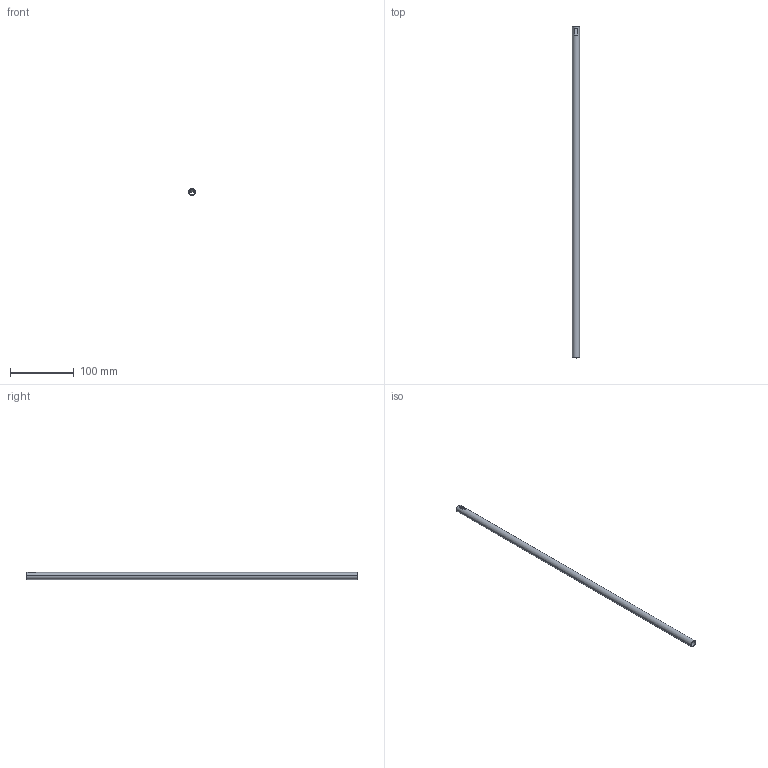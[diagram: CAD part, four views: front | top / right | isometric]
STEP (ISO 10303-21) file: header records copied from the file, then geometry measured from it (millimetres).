
FILE_DESCRIPTION (( 'STEP AP214' ), '1' );
FILE_NAME ('Relingsrohr_2S-Rundrel_Interwood_P760604300_550.step', '2010-09-07T12:59:36', ( 'grass' ), ( '' ), 'SwSTEP 2.0', 'SolidWorks 2010', '' );
FILE_SCHEMA (( 'AUTOMOTIVE_DESIGN' ));
Length unit declared in the file: millimetre
Products named in the file (1): Relingsrohr_2S-Rundrel_Interwood_P760604300_550
Bounding box: 11 x 519 x 11 mm (x, y, z)
Volume: 16302.6 mm3; surface area: 32713 mm2
Topology: 1 solids, 1 shells, 14 faces, 34 edges, 22 vertices
Faces by surface type: plane 10, cylinder 4
Entity records: 476 total; most frequent: CARTESIAN_POINT 77, DIRECTION 72, ORIENTED_EDGE 68, EDGE_CURVE 34, AXIS2_PLACEMENT_3D 25, VECTOR 22, LINE 22, VERTEX_POINT 22
